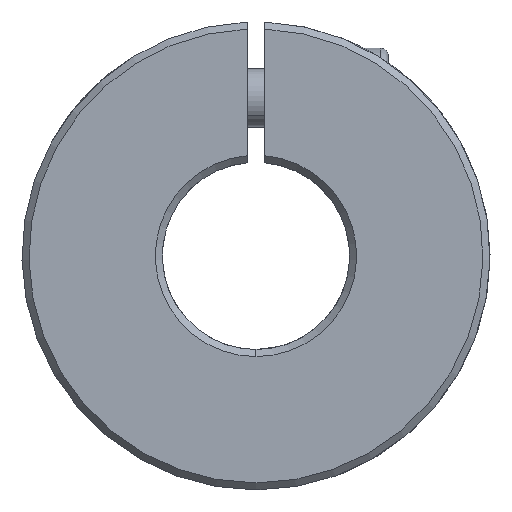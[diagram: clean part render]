
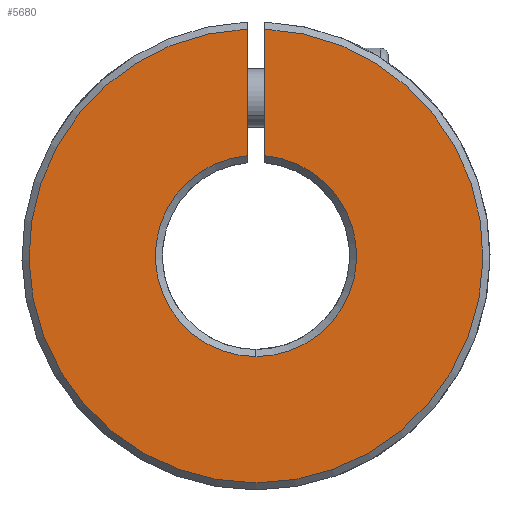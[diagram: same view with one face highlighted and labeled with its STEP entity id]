
A CAD part, front view. The second image highlights one B-rep face of the part: STEP entity #5680.
In plain terms, the highlighted planar face has unit normal (0, -1, 0).
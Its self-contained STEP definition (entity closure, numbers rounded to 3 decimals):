
#49 = ORIENTED_EDGE ( 'NONE', *, *, #2138, .T. ) ;
#100 = CARTESIAN_POINT ( 'NONE',  ( 0., -25., 0. ) ) ;
#232 = CIRCLE ( 'NONE', #1347, 8.6 ) ;
#421 = VECTOR ( 'NONE', #4557, 1000. ) ;
#456 = CARTESIAN_POINT ( 'NONE',  ( 0., -25., -8.6 ) ) ;
#558 = ORIENTED_EDGE ( 'NONE', *, *, #5422, .T. ) ;
#818 = EDGE_LOOP ( 'NONE', ( #5463, #3541, #558, #49, #4248 ) ) ;
#853 = DIRECTION ( 'NONE',  ( 0., 0., 1. ) ) ;
#1010 = DIRECTION ( 'NONE',  ( 0., 1., 0. ) ) ;
#1070 = CARTESIAN_POINT ( 'NONE',  ( 0., -25., 0. ) ) ;
#1206 = CIRCLE ( 'NONE', #2888, 19.4 ) ;
#1332 = VERTEX_POINT ( 'NONE', #1520 ) ;
#1347 = AXIS2_PLACEMENT_3D ( 'NONE', #1070, #4516, #3638 ) ;
#1349 = CARTESIAN_POINT ( 'NONE',  ( -0.75, -25., -4. ) ) ;
#1378 = LINE ( 'NONE', #1349, #5528 ) ;
#1379 = DIRECTION ( 'NONE',  ( 0., 0., 1. ) ) ;
#1438 = DIRECTION ( 'NONE',  ( 0., 0., 1. ) ) ;
#1520 = CARTESIAN_POINT ( 'NONE',  ( -0.75, -25., 8.567 ) ) ;
#1863 = LINE ( 'NONE', #3260, #421 ) ;
#1865 = PLANE ( 'NONE',  #2655 ) ;
#1872 = CARTESIAN_POINT ( 'NONE',  ( 0., -25., 0. ) ) ;
#2138 = EDGE_CURVE ( 'NONE', #1332, #4613, #1378, .T. ) ;
#2183 = EDGE_CURVE ( 'NONE', #4145, #4667, #2787, .T. ) ;
#2182 = DIRECTION ( 'NONE',  ( 0., 0., 1. ) ) ;
#2401 = EDGE_CURVE ( 'NONE', #4104, #4145, #1863, .T. ) ;
#2647 = FACE_OUTER_BOUND ( 'NONE', #818, .T. ) ;
#2655 = AXIS2_PLACEMENT_3D ( 'NONE', #4375, #4029, #2182 ) ;
#2787 = CIRCLE ( 'NONE', #3506, 8.6 ) ;
#2888 = AXIS2_PLACEMENT_3D ( 'NONE', #100, #5334, #1379 ) ;
#3260 = CARTESIAN_POINT ( 'NONE',  ( 0.75, -25., -4. ) ) ;
#3398 = EDGE_CURVE ( 'NONE', #4613, #4104, #1206, .T. ) ;
#3506 = AXIS2_PLACEMENT_3D ( 'NONE', #1872, #1010, #1438 ) ;
#3541 = ORIENTED_EDGE ( 'NONE', *, *, #2183, .T. ) ;
#3638 = DIRECTION ( 'NONE',  ( 0., 0., 1. ) ) ;
#4029 = DIRECTION ( 'NONE',  ( 0., 1., 0. ) ) ;
#4104 = VERTEX_POINT ( 'NONE', #4329 ) ;
#4145 = VERTEX_POINT ( 'NONE', #4443 ) ;
#4248 = ORIENTED_EDGE ( 'NONE', *, *, #3398, .T. ) ;
#4329 = CARTESIAN_POINT ( 'NONE',  ( 0.75, -25., 19.385 ) ) ;
#4375 = CARTESIAN_POINT ( 'NONE',  ( 0., -25., 0. ) ) ;
#4443 = CARTESIAN_POINT ( 'NONE',  ( 0.75, -25., 8.567 ) ) ;
#4516 = DIRECTION ( 'NONE',  ( 0., 1., 0. ) ) ;
#4557 = DIRECTION ( 'NONE',  ( 0., 0., -1. ) ) ;
#4613 = VERTEX_POINT ( 'NONE', #4867 ) ;
#4667 = VERTEX_POINT ( 'NONE', #456 ) ;
#4867 = CARTESIAN_POINT ( 'NONE',  ( -0.75, -25., 19.385 ) ) ;
#5334 = DIRECTION ( 'NONE',  ( 0., -1., 0. ) ) ;
#5422 = EDGE_CURVE ( 'NONE', #4667, #1332, #232, .T. ) ;
#5463 = ORIENTED_EDGE ( 'NONE', *, *, #2401, .T. ) ;
#5528 = VECTOR ( 'NONE', #853, 1000. ) ;
#5680 = ADVANCED_FACE ( 'NONE', ( #2647 ), #1865, .F. ) ;
